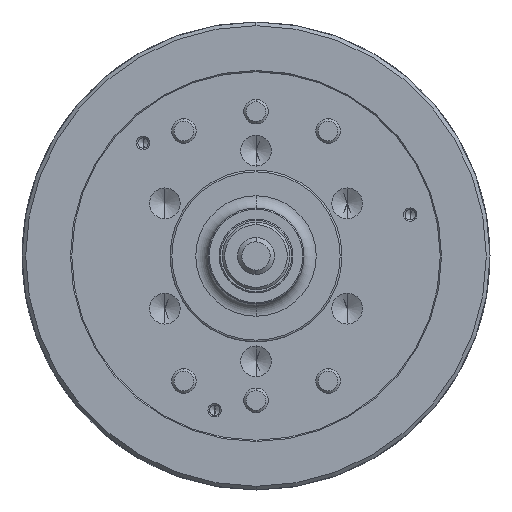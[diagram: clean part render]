
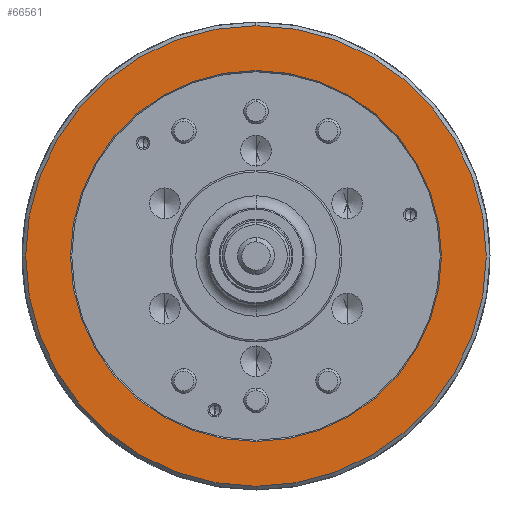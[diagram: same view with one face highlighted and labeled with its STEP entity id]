
A CAD part, left-side view. The second image highlights one B-rep face of the part: STEP entity #66561.
In plain terms, the highlighted planar face has unit normal (-1, 0, 0) as drawn and (0, 0, -1) by its records, which use the part's own axes.
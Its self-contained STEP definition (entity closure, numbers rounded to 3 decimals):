
#818 = FACE_OUTER_BOUND ( 'NONE', #43975, .T. ) ;
#1073 = VERTEX_POINT ( 'NONE', #11669 ) ;
#2463 = DIRECTION ( 'NONE',  ( 0., 0., 1. ) ) ;
#7598 = DIRECTION ( 'NONE',  ( 0., 0., 1. ) ) ;
#9199 = ORIENTED_EDGE ( 'NONE', *, *, #17510, .F. ) ;
#11669 = CARTESIAN_POINT ( 'NONE',  ( 151., 0., -114. ) ) ;
#13141 = CARTESIAN_POINT ( 'NONE',  ( -151., 0., -114. ) ) ;
#15621 = ORIENTED_EDGE ( 'NONE', *, *, #58451, .T. ) ;
#16486 = CIRCLE ( 'NONE', #34486, 187.5 ) ;
#17510 = EDGE_CURVE ( 'NONE', #52621, #22446, #16486, .T. ) ;
#18389 = CARTESIAN_POINT ( 'NONE',  ( 0., 0., -114. ) ) ;
#19130 = DIRECTION ( 'NONE',  ( 0., 0., 1. ) ) ;
#20623 = AXIS2_PLACEMENT_3D ( 'NONE', #55666, #24741, #60858 ) ;
#20715 = AXIS2_PLACEMENT_3D ( 'NONE', #18389, #54551, #23612 ) ;
#22446 = VERTEX_POINT ( 'NONE', #47632 ) ;
#23612 = DIRECTION ( 'NONE',  ( 1., 0., 0. ) ) ;
#24741 = DIRECTION ( 'NONE',  ( 0., 0., 1. ) ) ;
#29871 = VERTEX_POINT ( 'NONE', #13141 ) ;
#33507 = PLANE ( 'NONE',  #59180 ) ;
#33675 = EDGE_CURVE ( 'NONE', #1073, #29871, #47544, .T. ) ;
#34486 = AXIS2_PLACEMENT_3D ( 'NONE', #38619, #7598, #43852 ) ;
#34604 = CIRCLE ( 'NONE', #20623, 187.5 ) ;
#36788 = CARTESIAN_POINT ( 'NONE',  ( -187.5, 0., -114. ) ) ;
#38619 = CARTESIAN_POINT ( 'NONE',  ( 0., 0., -114. ) ) ;
#38699 = DIRECTION ( 'NONE',  ( 1., 0., 0. ) ) ;
#42172 = FACE_BOUND ( 'NONE', #59283, .T. ) ;
#43852 = DIRECTION ( 'NONE',  ( 1., 0., 0. ) ) ;
#43975 = EDGE_LOOP ( 'NONE', ( #55243, #9199 ) ) ;
#47544 = CIRCLE ( 'NONE', #63344, 151. ) ;
#47632 = CARTESIAN_POINT ( 'NONE',  ( 187.5, 0., -114. ) ) ;
#50085 = CARTESIAN_POINT ( 'NONE',  ( 0., 0., -114. ) ) ;
#52621 = VERTEX_POINT ( 'NONE', #36788 ) ;
#54334 = ORIENTED_EDGE ( 'NONE', *, *, #33675, .T. ) ;
#54551 = DIRECTION ( 'NONE',  ( 0., 0., 1. ) ) ;
#55243 = ORIENTED_EDGE ( 'NONE', *, *, #56166, .F. ) ;
#55290 = DIRECTION ( 'NONE',  ( 1., 0., 0. ) ) ;
#55666 = CARTESIAN_POINT ( 'NONE',  ( 0., 0., -114. ) ) ;
#56166 = EDGE_CURVE ( 'NONE', #22446, #52621, #34604, .T. ) ;
#58451 = EDGE_CURVE ( 'NONE', #29871, #1073, #60949, .T. ) ;
#59180 = AXIS2_PLACEMENT_3D ( 'NONE', #59286, #2463, #38699 ) ;
#59283 = EDGE_LOOP ( 'NONE', ( #15621, #54334 ) ) ;
#59286 = CARTESIAN_POINT ( 'NONE',  ( 0., -151., -114. ) ) ;
#60858 = DIRECTION ( 'NONE',  ( 1., 0., 0. ) ) ;
#60949 = CIRCLE ( 'NONE', #20715, 151. ) ;
#63344 = AXIS2_PLACEMENT_3D ( 'NONE', #50085, #19130, #55290 ) ;
#66561 = ADVANCED_FACE ( 'NONE', ( #818, #42172 ), #33507, .F. ) ;
